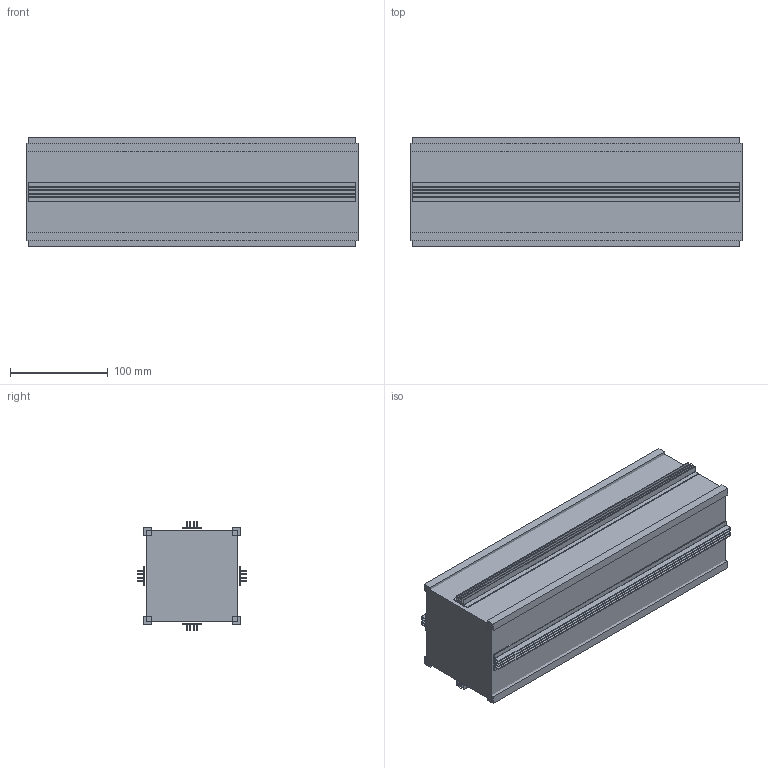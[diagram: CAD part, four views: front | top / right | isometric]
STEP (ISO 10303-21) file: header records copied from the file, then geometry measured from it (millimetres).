
FILE_DESCRIPTION(('Open CASCADE Model'),'2;1');
FILE_NAME('Open CASCADE Shape Model','2026-08-13T21:24:41',('Author'),( 'Open CASCADE'),'Open CASCADE STEP processor 7.7','Open CASCADE 7.7' ,'Unknown');
FILE_SCHEMA(('AUTOMOTIVE_DESIGN { 1 0 10303 214 1 1 1 1 }'));
Length unit declared in the file: millimetre
Products named in the file (42): Open CASCADE STEP translator 7.7 2; Open CASCADE STEP translator 7.7 2.1; Open CASCADE STEP translator 7.7 2.2; Open CASCADE STEP translator 7.7 2.3; Open CASCADE STEP translator 7.7 2.4; Open CASCADE STEP translator 7.7 2.5; Open CASCADE STEP translator 7.7 2.6; Open CASCADE STEP translator 7.7 2.7; Open CASCADE STEP translator 7.7 2.8; Open CASCADE STEP translator 7.7 2.9; Open CASCADE STEP translator 7.7 2.10; Open CASCADE STEP translator 7.7 2.11; Open CASCADE STEP translator 7.7 2.12; Open CASCADE STEP translator 7.7 2.13; Open CASCADE STEP translator 7.7 2.14; Open CASCADE STEP translator 7.7 2.15; Open CASCADE STEP translator 7.7 2.16; Open CASCADE STEP translator 7.7 2.17; Open CASCADE STEP translator 7.7 2.18; Open CASCADE STEP translator 7.7 2.19; Open CASCADE STEP translator 7.7 2.20; Open CASCADE STEP translator 7.7 2.21; Open CASCADE STEP translator 7.7 2.22; Open CASCADE STEP translator 7.7 2.23; Open CASCADE STEP translator 7.7 2.24; Open CASCADE STEP translator 7.7 2.25; Open CASCADE STEP translator 7.7 2.26; Open CASCADE STEP translator 7.7 2.27; Open CASCADE STEP translator 7.7 2.28; Open CASCADE STEP translator 7.7 2.29; Open CASCADE STEP translator 7.7 2.30; Open CASCADE STEP translator 7.7 2.31; Open CASCADE STEP translator 7.7 2.32; Open CASCADE STEP translator 7.7 2.33; Open CASCADE STEP translator 7.7 2.34; Open CASCADE STEP translator 7.7 2.35; Open CASCADE STEP translator 7.7 2.36; Open CASCADE STEP translator 7.7 2.37; Open CASCADE STEP translator 7.7 2.38; Open CASCADE STEP translator 7.7 2.39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
Assembly tree (41 placements, depth 2):
  Open CASCADE STEP translator 7.7 2
    Open CASCADE STEP translator 7.7 2.1
    Open CASCADE STEP translator 7.7 2.2
    Open CASCADE STEP translator 7.7 2.3
    Open CASCADE STEP translator 7.7 2.4
    Open CASCADE STEP translator 7.7 2.5
    Open CASCADE STEP translator 7.7 2.6
    Open CASCADE STEP translator 7.7 2.7
    Open CASCADE STEP translator 7.7 2.8
    Open CASCADE STEP translator 7.7 2.9
    Open CASCADE STEP translator 7.7 2.10
    Open CASCADE STEP translator 7.7 2.11
    Open CASCADE STEP translator 7.7 2.12
    Open CASCADE STEP translator 7.7 2.13
    Open CASCADE STEP translator 7.7 2.14
    Open CASCADE STEP translator 7.7 2.15
    Open CASCADE STEP translator 7.7 2.16
    Open CASCADE STEP translator 7.7 2.17
    Open CASCADE STEP translator 7.7 2.18
    Open CASCADE STEP translator 7.7 2.19
    Open CASCADE STEP translator 7.7 2.20
    Open CASCADE STEP translator 7.7 2.21
    Open CASCADE STEP translator 7.7 2.22
    Open CASCADE STEP translator 7.7 2.23
    Open CASCADE STEP translator 7.7 2.24
    Open CASCADE STEP translator 7.7 2.25
    Open CASCADE STEP translator 7.7 2.26
    Open CASCADE STEP translator 7.7 2.27
    Open CASCADE STEP translator 7.7 2.28
    Open CASCADE STEP translator 7.7 2.29
    Open CASCADE STEP translator 7.7 2.30
    Open CASCADE STEP translator 7.7 2.31
    Open CASCADE STEP translator 7.7 2.32
    Open CASCADE STEP translator 7.7 2.33
    Open CASCADE STEP translator 7.7 2.34
    Open CASCADE STEP translator 7.7 2.35
    Open CASCADE STEP translator 7.7 2.36
    Open CASCADE STEP translator 7.7 2.37
    Open CASCADE STEP translator 7.7 2.38
    Open CASCADE STEP translator 7.7 2.39
    Open CASCADE STEP translator 7.7 2.40
    Open CASCADE STEP translator 7.7 2.41
Bounding box: 340.5 x 112.5 x 112.5 mm (x, y, z)
Volume: 3167542.5 mm3; surface area: 394546 mm2
Topology: 41 solids, 41 shells, 246 faces, 492 edges, 328 vertices
Faces by surface type: plane 246
Entity records: 13300 total; most frequent: CARTESIAN_POINT 2092, DIRECTION 2052, LINE 1476, VECTOR 1476, ORIENTED_EDGE 984, PCURVE 984, DEFINITIONAL_REPRESENTATION 984, EDGE_CURVE 492
